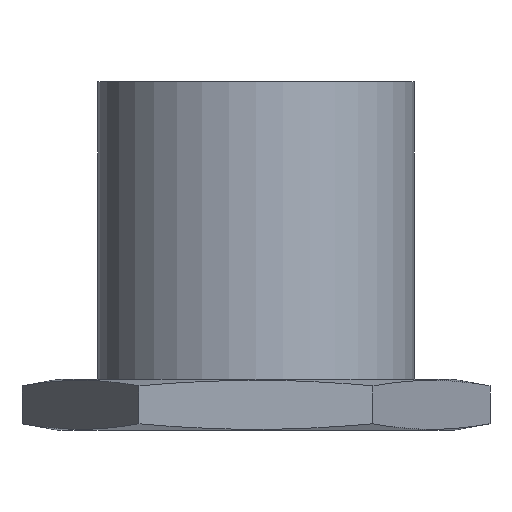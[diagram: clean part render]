
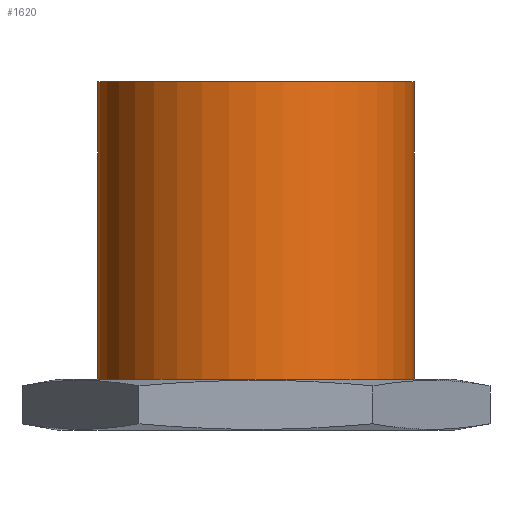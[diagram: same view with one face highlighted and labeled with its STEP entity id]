
A CAD part, front view. The second image highlights one B-rep face of the part: STEP entity #1620.
In plain terms, the highlighted cylindrical face has radius 12.5 mm (diameter 25 mm), a partial arc.
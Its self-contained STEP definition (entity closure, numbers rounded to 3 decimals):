
#144 = DIRECTION ( 'NONE',  ( 1., 0., 0. ) ) ;
#170 = VERTEX_POINT ( 'NONE', #1897 ) ;
#304 = VERTEX_POINT ( 'NONE', #385 ) ;
#385 = CARTESIAN_POINT ( 'NONE',  ( -12.5, 0., 27.5 ) ) ;
#445 = LINE ( 'NONE', #951, #1839 ) ;
#486 = AXIS2_PLACEMENT_3D ( 'NONE', #1537, #1361, #144 ) ;
#570 = DIRECTION ( 'NONE',  ( 0., 0., -1. ) ) ;
#594 = VERTEX_POINT ( 'NONE', #867 ) ;
#714 = CARTESIAN_POINT ( 'NONE',  ( 12.5, 0., 27.5 ) ) ;
#730 = DIRECTION ( 'NONE',  ( -1., 0., 0. ) ) ;
#750 = CIRCLE ( 'NONE', #849, 12.5 ) ;
#849 = AXIS2_PLACEMENT_3D ( 'NONE', #1303, #1769, #1294 ) ;
#867 = CARTESIAN_POINT ( 'NONE',  ( -12.5, 0., 4. ) ) ;
#927 = ORIENTED_EDGE ( 'NONE', *, *, #1162, .T. ) ;
#951 = CARTESIAN_POINT ( 'NONE',  ( -12.5, 0., 27.5 ) ) ;
#974 = EDGE_LOOP ( 'NONE', ( #1841, #1540, #927, #1722 ) ) ;
#1002 = EDGE_CURVE ( 'NONE', #1299, #170, #2021, .T. ) ;
#1074 = DIRECTION ( 'NONE',  ( 0., 0., -1. ) ) ;
#1092 = CARTESIAN_POINT ( 'NONE',  ( 0., 0., 27.5 ) ) ;
#1130 = CARTESIAN_POINT ( 'NONE',  ( 12.5, 0., 27.5 ) ) ;
#1162 = EDGE_CURVE ( 'NONE', #304, #594, #445, .T. ) ;
#1202 = CYLINDRICAL_SURFACE ( 'NONE', #1281, 12.5 ) ;
#1281 = AXIS2_PLACEMENT_3D ( 'NONE', #1092, #1727, #730 ) ;
#1282 = EDGE_CURVE ( 'NONE', #304, #1299, #750, .T. ) ;
#1294 = DIRECTION ( 'NONE',  ( 1., 0., 0. ) ) ;
#1299 = VERTEX_POINT ( 'NONE', #1130 ) ;
#1303 = CARTESIAN_POINT ( 'NONE',  ( 0., 0., 27.5 ) ) ;
#1361 = DIRECTION ( 'NONE',  ( 0., 0., 1. ) ) ;
#1537 = CARTESIAN_POINT ( 'NONE',  ( 0., 0., 4. ) ) ;
#1540 = ORIENTED_EDGE ( 'NONE', *, *, #1282, .F. ) ;
#1620 = ADVANCED_FACE ( 'NONE', ( #2050 ), #1202, .T. ) ;
#1649 = EDGE_CURVE ( 'NONE', #594, #170, #1884, .T. ) ;
#1722 = ORIENTED_EDGE ( 'NONE', *, *, #1649, .T. ) ;
#1727 = DIRECTION ( 'NONE',  ( 0., 0., -1. ) ) ;
#1769 = DIRECTION ( 'NONE',  ( 0., 0., 1. ) ) ;
#1839 = VECTOR ( 'NONE', #1074, 1000. ) ;
#1841 = ORIENTED_EDGE ( 'NONE', *, *, #1002, .F. ) ;
#1884 = CIRCLE ( 'NONE', #486, 12.5 ) ;
#1897 = CARTESIAN_POINT ( 'NONE',  ( 12.5, 0., 4. ) ) ;
#2021 = LINE ( 'NONE', #714, #2034 ) ;
#2034 = VECTOR ( 'NONE', #570, 1000. ) ;
#2050 = FACE_OUTER_BOUND ( 'NONE', #974, .T. ) ;
